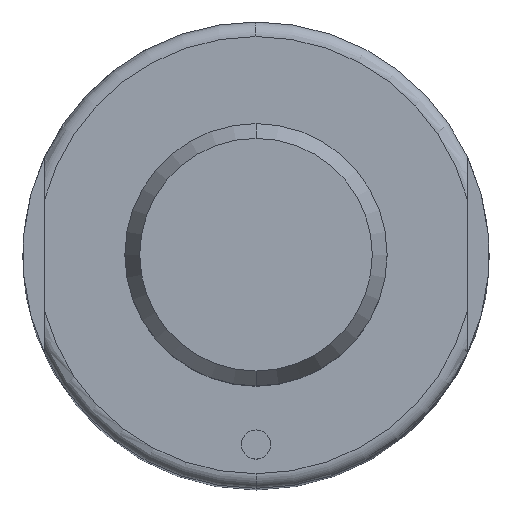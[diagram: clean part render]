
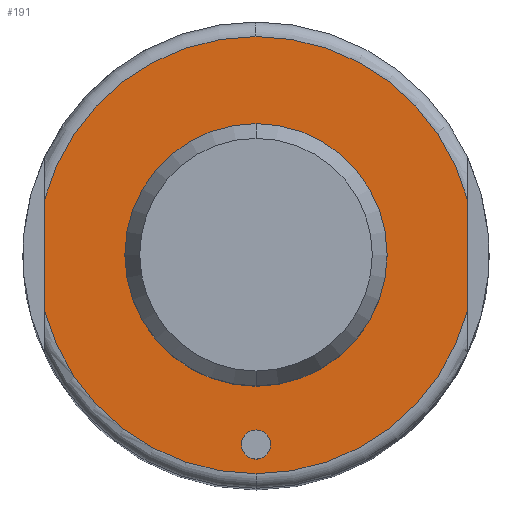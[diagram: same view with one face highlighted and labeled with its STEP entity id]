
A CAD part, top view. The second image highlights one B-rep face of the part: STEP entity #191.
In plain terms, the highlighted planar face has unit normal (0, 0, 1).
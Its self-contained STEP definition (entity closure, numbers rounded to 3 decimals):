
#115=FACE_BOUND('',#292,.T.);
#116=FACE_BOUND('',#293,.T.);
#117=FACE_BOUND('',#294,.T.);
#126=PLANE('',#862);
#191=ADVANCED_FACE('',(#115,#116,#117),#126,.T.);
#292=EDGE_LOOP('',(#515,#516,#517,#518,#519,#520));
#293=EDGE_LOOP('',(#521,#522));
#294=EDGE_LOOP('',(#523,#524));
#303=CIRCLE('',#774,9.);
#304=CIRCLE('',#776,9.);
#310=CIRCLE('',#786,1.);
#311=CIRCLE('',#788,1.);
#343=CIRCLE('',#846,15.);
#344=CIRCLE('',#848,15.);
#348=CIRCLE('',#854,15.);
#352=CIRCLE('',#860,15.);
#515=ORIENTED_EDGE('',*,*,#691,.F.);
#516=ORIENTED_EDGE('',*,*,#690,.F.);
#517=ORIENTED_EDGE('',*,*,#674,.F.);
#518=ORIENTED_EDGE('',*,*,#692,.F.);
#519=ORIENTED_EDGE('',*,*,#672,.F.);
#520=ORIENTED_EDGE('',*,*,#683,.F.);
#521=ORIENTED_EDGE('',*,*,#621,.F.);
#522=ORIENTED_EDGE('',*,*,#620,.F.);
#523=ORIENTED_EDGE('',*,*,#610,.T.);
#524=ORIENTED_EDGE('',*,*,#608,.T.);
#545=VERTEX_POINT('',#1117);
#546=VERTEX_POINT('',#1119);
#551=VERTEX_POINT('',#1138);
#554=VERTEX_POINT('',#1143);
#586=VERTEX_POINT('',#1259);
#588=VERTEX_POINT('',#1263);
#589=VERTEX_POINT('',#1274);
#591=VERTEX_POINT('',#1277);
#595=VERTEX_POINT('',#1298);
#600=VERTEX_POINT('',#1319);
#608=EDGE_CURVE('',#546,#545,#303,.T.);
#610=EDGE_CURVE('',#545,#546,#304,.T.);
#620=EDGE_CURVE('',#554,#551,#310,.T.);
#621=EDGE_CURVE('',#551,#554,#311,.T.);
#672=EDGE_CURVE('',#588,#586,#343,.T.);
#674=EDGE_CURVE('',#589,#591,#344,.T.);
#683=EDGE_CURVE('',#595,#588,#348,.T.);
#690=EDGE_CURVE('',#591,#600,#352,.T.);
#691=EDGE_CURVE('',#600,#595,#727,.T.);
#692=EDGE_CURVE('',#586,#589,#728,.T.);
#727=LINE('',#1322,#763);
#728=LINE('',#1323,#764);
#763=VECTOR('',#1089,1.);
#764=VECTOR('',#1090,1.);
#774=AXIS2_PLACEMENT_3D('',#1118,#884,#885);
#776=AXIS2_PLACEMENT_3D('',#1122,#889,#890);
#786=AXIS2_PLACEMENT_3D('',#1144,#913,#914);
#788=AXIS2_PLACEMENT_3D('',#1146,#917,#918);
#846=AXIS2_PLACEMENT_3D('',#1264,#1051,#1052);
#848=AXIS2_PLACEMENT_3D('',#1276,#1055,#1056);
#854=AXIS2_PLACEMENT_3D('',#1300,#1071,#1072);
#860=AXIS2_PLACEMENT_3D('',#1320,#1085,#1086);
#862=AXIS2_PLACEMENT_3D('',#1324,#1091,#1092);
#884=DIRECTION('',(0.,0.,-1.));
#885=DIRECTION('',(-1.,0.,0.));
#889=DIRECTION('',(0.,0.,-1.));
#890=DIRECTION('',(1.,0.,0.));
#913=DIRECTION('',(0.,0.,1.));
#914=DIRECTION('',(-1.,0.,0.));
#917=DIRECTION('',(0.,0.,1.));
#918=DIRECTION('',(1.,0.,0.));
#1051=DIRECTION('',(0.,0.,-1.));
#1052=DIRECTION('',(-1.,0.,0.));
#1055=DIRECTION('',(0.,0.,-1.));
#1056=DIRECTION('',(-1.,0.,0.));
#1071=DIRECTION('',(0.,0.,-1.));
#1072=DIRECTION('',(1.,0.,0.));
#1085=DIRECTION('',(0.,0.,-1.));
#1086=DIRECTION('',(1.,0.,0.));
#1089=DIRECTION('',(0.,1.,0.));
#1090=DIRECTION('',(0.,-1.,0.));
#1091=DIRECTION('',(0.,0.,1.));
#1092=DIRECTION('',(1.,0.,0.));
#1117=CARTESIAN_POINT('',(0.,-9.,68.));
#1118=CARTESIAN_POINT('',(0.,0.,68.));
#1119=CARTESIAN_POINT('',(0.,9.,68.));
#1122=CARTESIAN_POINT('',(0.,0.,68.));
#1138=CARTESIAN_POINT('',(0.,-12.,68.));
#1143=CARTESIAN_POINT('',(0.,-14.,68.));
#1144=CARTESIAN_POINT('',(0.,-13.,68.));
#1146=CARTESIAN_POINT('',(0.,-13.,68.));
#1259=CARTESIAN_POINT('',(14.5,3.841,68.));
#1263=CARTESIAN_POINT('',(0.,15.,68.));
#1264=CARTESIAN_POINT('',(0.,0.,68.));
#1274=CARTESIAN_POINT('',(14.5,-3.841,68.));
#1276=CARTESIAN_POINT('',(0.,0.,68.));
#1277=CARTESIAN_POINT('',(0.,-15.,68.));
#1298=CARTESIAN_POINT('',(-14.5,3.841,68.));
#1300=CARTESIAN_POINT('',(0.,0.,68.));
#1319=CARTESIAN_POINT('',(-14.5,-3.841,68.));
#1320=CARTESIAN_POINT('',(0.,0.,68.));
#1322=CARTESIAN_POINT('',(-14.5,0.,68.));
#1323=CARTESIAN_POINT('',(14.5,0.,68.));
#1324=CARTESIAN_POINT('',(0.,0.,68.));
